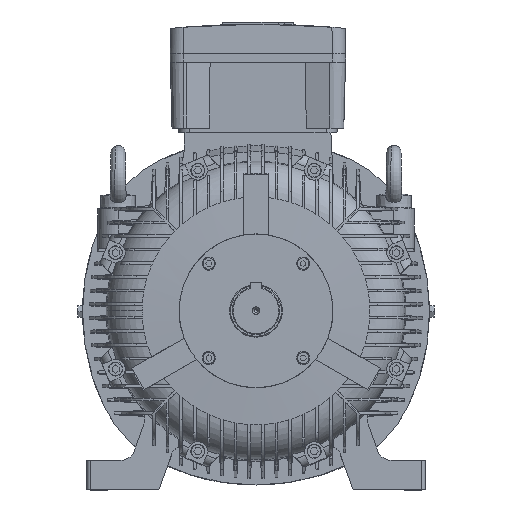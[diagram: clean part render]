
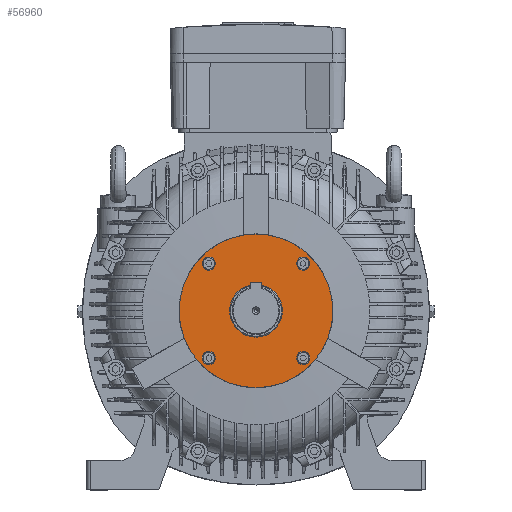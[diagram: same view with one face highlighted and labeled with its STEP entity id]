
A CAD part, top view. The second image highlights one B-rep face of the part: STEP entity #56960.
In plain terms, the highlighted planar face has unit normal (0, 0, 1).
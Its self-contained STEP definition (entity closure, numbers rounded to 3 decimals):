
#766 = FACE_BOUND ( 'NONE', #10517, .T. ) ;
#1474 = DIRECTION ( 'NONE',  ( -1., 0., 0. ) ) ;
#2128 = FACE_OUTER_BOUND ( 'NONE', #17307, .T. ) ;
#3445 = ORIENTED_EDGE ( 'NONE', *, *, #19269, .F. ) ;
#5661 = CARTESIAN_POINT ( 'NONE',  ( -46.24, 53.74, 262. ) ) ;
#7753 = ORIENTED_EDGE ( 'NONE', *, *, #89543, .F. ) ;
#8439 = AXIS2_PLACEMENT_3D ( 'NONE', #70888, #62055, #20035 ) ;
#8852 = DIRECTION ( 'NONE',  ( 0., 0., 1. ) ) ;
#9712 = EDGE_LOOP ( 'NONE', ( #22311, #17713 ) ) ;
#10517 = EDGE_LOOP ( 'NONE', ( #7753, #34117 ) ) ;
#11771 = EDGE_CURVE ( 'NONE', #106106, #106143, #19763, .T. ) ;
#13110 = EDGE_LOOP ( 'NONE', ( #102551, #3445 ) ) ;
#14136 = DIRECTION ( 'NONE',  ( 1., 0., 0. ) ) ;
#15193 = ORIENTED_EDGE ( 'NONE', *, *, #88597, .F. ) ;
#15316 = DIRECTION ( 'NONE',  ( 0., 0., 1. ) ) ;
#15870 = CARTESIAN_POINT ( 'NONE',  ( 0., 0., 262. ) ) ;
#16908 = AXIS2_PLACEMENT_3D ( 'NONE', #91951, #100108, #25204 ) ;
#17307 = EDGE_LOOP ( 'NONE', ( #37670, #66008 ) ) ;
#17713 = ORIENTED_EDGE ( 'NONE', *, *, #19626, .F. ) ;
#18234 = AXIS2_PLACEMENT_3D ( 'NONE', #63426, #48595, #31317 ) ;
#18285 = CARTESIAN_POINT ( 'NONE',  ( -53.74, 53.74, 262. ) ) ;
#18831 = EDGE_CURVE ( 'NONE', #73369, #89800, #46796, .T. ) ;
#19174 = DIRECTION ( 'NONE',  ( -1., 0., 0. ) ) ;
#19269 = EDGE_CURVE ( 'NONE', #65667, #80121, #54616, .T. ) ;
#19626 = EDGE_CURVE ( 'NONE', #73292, #81285, #108529, .T. ) ;
#19763 = CIRCLE ( 'NONE', #66106, 27.55 ) ;
#20035 = DIRECTION ( 'NONE',  ( 1., 0., 0. ) ) ;
#20293 = CARTESIAN_POINT ( 'NONE',  ( 0., 0., 262. ) ) ;
#21092 = AXIS2_PLACEMENT_3D ( 'NONE', #15870, #83687, #66692 ) ;
#21566 = ORIENTED_EDGE ( 'NONE', *, *, #84136, .F. ) ;
#22311 = ORIENTED_EDGE ( 'NONE', *, *, #29975, .F. ) ;
#22332 = CARTESIAN_POINT ( 'NONE',  ( -53.74, 53.74, 262. ) ) ;
#24577 = FACE_BOUND ( 'NONE', #49485, .T. ) ;
#25204 = DIRECTION ( 'NONE',  ( -1., 0., 0. ) ) ;
#26461 = CIRCLE ( 'NONE', #84558, 7.5 ) ;
#26669 = AXIS2_PLACEMENT_3D ( 'NONE', #20293, #79274, #19174 ) ;
#26753 = DIRECTION ( 'NONE',  ( 0., 0., 1. ) ) ;
#28153 = VERTEX_POINT ( 'NONE', #57843 ) ;
#29975 = EDGE_CURVE ( 'NONE', #81285, #73292, #55616, .T. ) ;
#30456 = DIRECTION ( 'NONE',  ( 1., 0., 0. ) ) ;
#31091 = AXIS2_PLACEMENT_3D ( 'NONE', #95011, #95370, #36710 ) ;
#31147 = FACE_BOUND ( 'NONE', #9712, .T. ) ;
#31317 = DIRECTION ( 'NONE',  ( 1., 0., 0. ) ) ;
#32546 = VERTEX_POINT ( 'NONE', #51870 ) ;
#34117 = ORIENTED_EDGE ( 'NONE', *, *, #11771, .F. ) ;
#34956 = CARTESIAN_POINT ( 'NONE',  ( -27.55, 0., 262. ) ) ;
#36398 = ORIENTED_EDGE ( 'NONE', *, *, #18831, .F. ) ;
#36710 = DIRECTION ( 'NONE',  ( 1., 0., 0. ) ) ;
#37306 = CARTESIAN_POINT ( 'NONE',  ( -61.24, 53.74, 262. ) ) ;
#37670 = ORIENTED_EDGE ( 'NONE', *, *, #101287, .F. ) ;
#37901 = CIRCLE ( 'NONE', #26669, 87.5 ) ;
#39591 = CARTESIAN_POINT ( 'NONE',  ( -61.24, -53.74, 262. ) ) ;
#41084 = DIRECTION ( 'NONE',  ( 1., 0., 0. ) ) ;
#42751 = PLANE ( 'NONE',  #85066 ) ;
#43113 = CIRCLE ( 'NONE', #21092, 87.5 ) ;
#46796 = CIRCLE ( 'NONE', #97496, 7.5 ) ;
#47523 = DIRECTION ( 'NONE',  ( -1., 0., 0. ) ) ;
#48595 = DIRECTION ( 'NONE',  ( 0., 0., 1. ) ) ;
#48861 = CARTESIAN_POINT ( 'NONE',  ( 46.24, -53.74, 262. ) ) ;
#49485 = EDGE_LOOP ( 'NONE', ( #70960, #15193 ) ) ;
#51327 = CIRCLE ( 'NONE', #108164, 7.5 ) ;
#51870 = CARTESIAN_POINT ( 'NONE',  ( 61.24, 53.74, 262. ) ) ;
#53727 = CIRCLE ( 'NONE', #16908, 27.55 ) ;
#54616 = CIRCLE ( 'NONE', #8439, 7.5 ) ;
#55616 = CIRCLE ( 'NONE', #109214, 7.5 ) ;
#56752 = CARTESIAN_POINT ( 'NONE',  ( 27.55, 0., 262. ) ) ;
#56950 = CARTESIAN_POINT ( 'NONE',  ( -87.5, 0., 262. ) ) ;
#56960 = ADVANCED_FACE ( 'NONE', ( #64142, #31147, #83921, #24577, #2128, #766 ), #42751, .F. ) ;
#57491 = CARTESIAN_POINT ( 'NONE',  ( 61.24, -53.74, 262. ) ) ;
#57843 = CARTESIAN_POINT ( 'NONE',  ( 87.5, 0., 262. ) ) ;
#60088 = DIRECTION ( 'NONE',  ( 1., 0., 0. ) ) ;
#62055 = DIRECTION ( 'NONE',  ( 0., 0., 1. ) ) ;
#63426 = CARTESIAN_POINT ( 'NONE',  ( 53.74, -53.74, 262. ) ) ;
#64142 = FACE_BOUND ( 'NONE', #81781, .T. ) ;
#64624 = DIRECTION ( 'NONE',  ( 0., 0., 1. ) ) ;
#65667 = VERTEX_POINT ( 'NONE', #48861 ) ;
#66008 = ORIENTED_EDGE ( 'NONE', *, *, #70574, .F. ) ;
#66106 = AXIS2_PLACEMENT_3D ( 'NONE', #89549, #98082, #47523 ) ;
#66416 = CARTESIAN_POINT ( 'NONE',  ( -46.24, -53.74, 262. ) ) ;
#66692 = DIRECTION ( 'NONE',  ( -1., 0., 0. ) ) ;
#68914 = CARTESIAN_POINT ( 'NONE',  ( 0., 87.5, 262. ) ) ;
#70574 = EDGE_CURVE ( 'NONE', #28153, #94428, #43113, .T. ) ;
#70888 = CARTESIAN_POINT ( 'NONE',  ( 53.74, -53.74, 262. ) ) ;
#70960 = ORIENTED_EDGE ( 'NONE', *, *, #84250, .F. ) ;
#73292 = VERTEX_POINT ( 'NONE', #39591 ) ;
#73369 = VERTEX_POINT ( 'NONE', #5661 ) ;
#76685 = CARTESIAN_POINT ( 'NONE',  ( 53.74, 53.74, 262. ) ) ;
#79274 = DIRECTION ( 'NONE',  ( 0., 0., -1. ) ) ;
#80121 = VERTEX_POINT ( 'NONE', #57491 ) ;
#81285 = VERTEX_POINT ( 'NONE', #66416 ) ;
#81781 = EDGE_LOOP ( 'NONE', ( #36398, #21566 ) ) ;
#82490 = EDGE_CURVE ( 'NONE', #80121, #65667, #98548, .T. ) ;
#83687 = DIRECTION ( 'NONE',  ( 0., 0., -1. ) ) ;
#83921 = FACE_BOUND ( 'NONE', #13110, .T. ) ;
#84136 = EDGE_CURVE ( 'NONE', #89800, #73369, #96327, .T. ) ;
#84250 = EDGE_CURVE ( 'NONE', #32546, #96933, #51327, .T. ) ;
#84558 = AXIS2_PLACEMENT_3D ( 'NONE', #76685, #8852, #60088 ) ;
#84813 = DIRECTION ( 'NONE',  ( 0., 0., -1. ) ) ;
#85066 = AXIS2_PLACEMENT_3D ( 'NONE', #68914, #84813, #1474 ) ;
#85548 = AXIS2_PLACEMENT_3D ( 'NONE', #18285, #26753, #85725 ) ;
#85725 = DIRECTION ( 'NONE',  ( 1., 0., 0. ) ) ;
#88597 = EDGE_CURVE ( 'NONE', #96933, #32546, #26461, .T. ) ;
#89543 = EDGE_CURVE ( 'NONE', #106143, #106106, #53727, .T. ) ;
#89549 = CARTESIAN_POINT ( 'NONE',  ( 0., 0., 262. ) ) ;
#89800 = VERTEX_POINT ( 'NONE', #37306 ) ;
#91951 = CARTESIAN_POINT ( 'NONE',  ( 0., 0., 262. ) ) ;
#94428 = VERTEX_POINT ( 'NONE', #56950 ) ;
#95011 = CARTESIAN_POINT ( 'NONE',  ( -53.74, -53.74, 262. ) ) ;
#95370 = DIRECTION ( 'NONE',  ( 0., 0., 1. ) ) ;
#96327 = CIRCLE ( 'NONE', #85548, 7.5 ) ;
#96755 = CARTESIAN_POINT ( 'NONE',  ( -53.74, -53.74, 262. ) ) ;
#96933 = VERTEX_POINT ( 'NONE', #97925 ) ;
#97496 = AXIS2_PLACEMENT_3D ( 'NONE', #22332, #105688, #30456 ) ;
#97925 = CARTESIAN_POINT ( 'NONE',  ( 46.24, 53.74, 262. ) ) ;
#98082 = DIRECTION ( 'NONE',  ( 0., 0., 1. ) ) ;
#98548 = CIRCLE ( 'NONE', #18234, 7.5 ) ;
#99763 = CARTESIAN_POINT ( 'NONE',  ( 53.74, 53.74, 262. ) ) ;
#100108 = DIRECTION ( 'NONE',  ( 0., 0., 1. ) ) ;
#101287 = EDGE_CURVE ( 'NONE', #94428, #28153, #37901, .T. ) ;
#102551 = ORIENTED_EDGE ( 'NONE', *, *, #82490, .F. ) ;
#105688 = DIRECTION ( 'NONE',  ( 0., 0., 1. ) ) ;
#106106 = VERTEX_POINT ( 'NONE', #56752 ) ;
#106143 = VERTEX_POINT ( 'NONE', #34956 ) ;
#108164 = AXIS2_PLACEMENT_3D ( 'NONE', #99763, #15316, #41084 ) ;
#108529 = CIRCLE ( 'NONE', #31091, 7.5 ) ;
#109214 = AXIS2_PLACEMENT_3D ( 'NONE', #96755, #64624, #14136 ) ;
